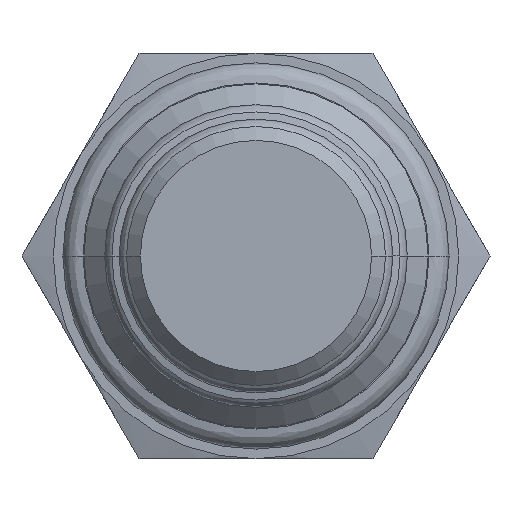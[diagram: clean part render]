
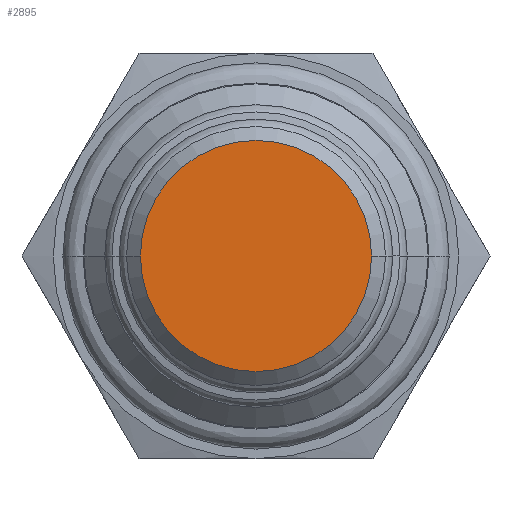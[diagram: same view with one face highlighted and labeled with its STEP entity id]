
A CAD part, front view. The second image highlights one B-rep face of the part: STEP entity #2895.
In plain terms, the highlighted planar face has unit normal (0, -1, 0).
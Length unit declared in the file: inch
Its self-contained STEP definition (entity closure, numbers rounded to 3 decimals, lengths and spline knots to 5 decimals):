
#1097=CARTESIAN_POINT('',(0.,-1.599,0.));
#1098=DIRECTION('',(0.,-1.,0.));
#1099=DIRECTION('',(1.,0.,0.));
#1100=AXIS2_PLACEMENT_3D('',#1097,#1098,#1099);
#1107=CARTESIAN_POINT('',(0.,-1.599,0.));
#1108=DIRECTION('',(0.,-1.,0.));
#1109=DIRECTION('',(-1.,0.,0.));
#1110=AXIS2_PLACEMENT_3D('',#1107,#1108,#1109);
#1269=CARTESIAN_POINT('',(0.2495,-1.599,0.));
#1270=CARTESIAN_POINT('',(-0.2495,-1.599,0.));
#1271=VERTEX_POINT('',#1269);
#1272=VERTEX_POINT('',#1270);
#2885=CARTESIAN_POINT('',(0.,-1.599,0.));
#2886=DIRECTION('',(0.,-1.,0.));
#2887=DIRECTION('',(0.,0.,1.));
#2888=AXIS2_PLACEMENT_3D('',#2885,#2886,#2887);
#2889=PLANE('',#2888);
#2890=ORIENTED_EDGE('',*,*,#2875,.F.);
#2892=ORIENTED_EDGE('',*,*,#2891,.F.);
#2893=EDGE_LOOP('',(#2890,#2892));
#2894=FACE_OUTER_BOUND('',#2893,.F.);
#2895=ADVANCED_FACE('',(#2894),#2889,.T.);
#1101=CIRCLE('',#1100,0.2495);
#1111=CIRCLE('',#1110,0.2495);
#2875=EDGE_CURVE('',#1271,#1272,#1101,.T.);
#2891=EDGE_CURVE('',#1272,#1271,#1111,.T.);
